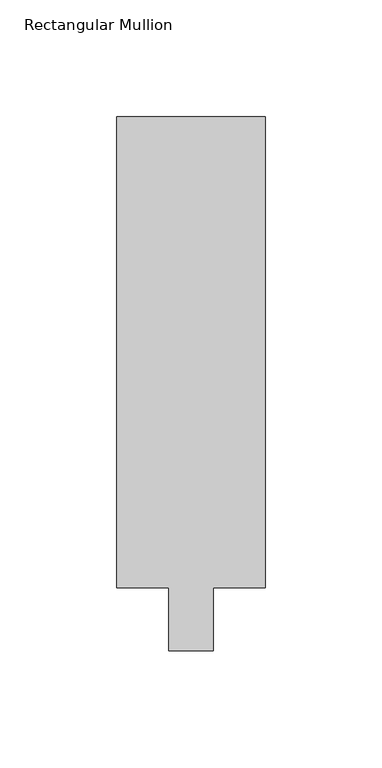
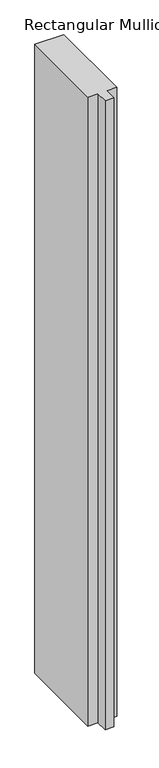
"""IFC4 building model written with IfcOpenShell, lengths in millimetres: member geometry."""

from ifc_helpers import new_model, si_unit, frame, origin, place, context, project, spatial, polyline, outline, extrude, source, transform, mapped, element, save


def rectangular_mullion_70250a05(model_context):
    return source(origin(), model_context, "Body", "SweptSolid", [
        extrude(outline(polyline([(31.75, 228.6), (31.75, 26.9875), (9.525, 26.9875), (9.525, 0.0), (-9.525, 0.0), (-9.525, 26.9875), (-31.75, 26.9875), (-31.75, 228.6), (31.75, 228.6)])), frame((0.0, 0.0, -1462.6166667), z_axis=(0.0, 0.0, 1.0), x_axis=(1.0, 0.0, 0.0)), (0.0, 0.0, 1.0), 1462.6166667),
    ])


if __name__ == "__main__":
    model = new_model("IFC4")
    model_context = context("Model", 3, world=origin())
    ifc_project = project(units=[si_unit("LENGTHUNIT", "METRE", prefix="MILLI")], contexts=[model_context])
    site = spatial("IfcSite", under=ifc_project)
    building = spatial("IfcBuilding", under=site)
    placement = place(None, origin())
    rectangular_mullion_shape = rectangular_mullion_70250a05(model_context)
    element("IfcMember", 1, ObjectType="Rectangular Mullion : 2 1/2\" x 8\" - Capless", at=placement, inside=building, context=model_context, shape_type="MappedRepresentation", body=[
        mapped(rectangular_mullion_shape, transform((0.0, 0.0, 0.0), x_axis=(1.0, 0.0, 0.0), y_axis=(0.0, 1.0, 0.0), z_axis=(0.0, 0.0, 1.0))),
    ])
    save(model, "model.ifc")
